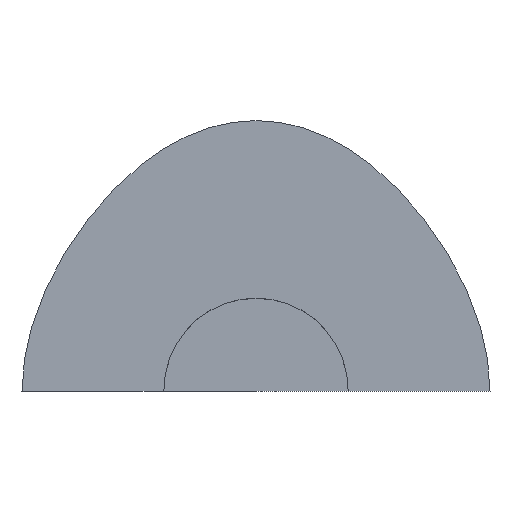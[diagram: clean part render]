
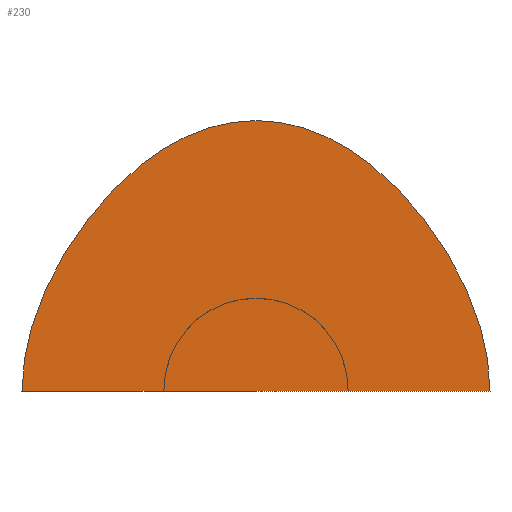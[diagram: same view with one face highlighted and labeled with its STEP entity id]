
A CAD part, top view. The second image highlights one B-rep face of the part: STEP entity #230.
In plain terms, the highlighted planar face has unit normal (0, 0, 1).
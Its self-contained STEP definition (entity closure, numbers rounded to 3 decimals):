
#193=CARTESIAN_POINT('Axis2P3D Location',(0.,59.765,0.)) ;
#198=CARTESIAN_POINT('Line Origine',(0.,0.,0.)) ;
#202=CARTESIAN_POINT('Vertex',(-127.,0.,0.)) ;
#204=CARTESIAN_POINT('Vertex',(127.,0.,0.)) ;
#208=CARTESIAN_POINT('Control Point',(0.,147.,0.)) ;
#209=CARTESIAN_POINT('Control Point',(38.853,147.,0.)) ;
#210=CARTESIAN_POINT('Control Point',(75.459,124.82,0.)) ;
#211=CARTESIAN_POINT('Control Point',(109.82,80.459,0.)) ;
#212=CARTESIAN_POINT('Control Point',(127.,38.853,0.)) ;
#213=CARTESIAN_POINT('Control Point',(127.,0.,0.)) ;
#214=CARTESIAN_POINT('Vertex',(0.,147.,0.)) ;
#218=CARTESIAN_POINT('Control Point',(0.,147.,0.)) ;
#219=CARTESIAN_POINT('Control Point',(-38.853,147.,0.)) ;
#220=CARTESIAN_POINT('Control Point',(-75.459,124.82,0.)) ;
#221=CARTESIAN_POINT('Control Point',(-109.82,80.459,0.)) ;
#222=CARTESIAN_POINT('Control Point',(-127.,38.853,0.)) ;
#223=CARTESIAN_POINT('Control Point',(-127.,0.,0.)) ;
#194=DIRECTION('Axis2P3D Direction',(0.,0.,1.)) ;
#195=DIRECTION('Axis2P3D XDirection',(1.,0.,0.)) ;
#199=DIRECTION('Vector Direction',(1.,0.,0.)) ;
#196=AXIS2_PLACEMENT_3D('Plane Axis2P3D',#193,#194,#195) ;
#226=ORIENTED_EDGE('',*,*,#206,.T.) ;
#227=ORIENTED_EDGE('',*,*,#216,.T.) ;
#228=ORIENTED_EDGE('',*,*,#224,.T.) ;
#200=VECTOR('Line Direction',#199,1.) ;
#230=ADVANCED_FACE('Fill.1',(#229),#197,.T.) ;
#207=B_SPLINE_CURVE_WITH_KNOTS('',5,(#208,#209,#210,#211,#212,#213),.UNSPECIFIED.,.F.,.U.,(6,6),(0.,194.263),.UNSPECIFIED.) ;
#217=B_SPLINE_CURVE_WITH_KNOTS('',5,(#218,#219,#220,#221,#222,#223),.UNSPECIFIED.,.F.,.U.,(6,6),(0.,194.263),.UNSPECIFIED.) ;
#206=EDGE_CURVE('',#203,#205,#201,.T.) ;
#216=EDGE_CURVE('',#205,#215,#207,.F.) ;
#224=EDGE_CURVE('',#215,#203,#217,.T.) ;
#225=EDGE_LOOP('',(#226,#227,#228)) ;
#229=FACE_OUTER_BOUND('',#225,.T.) ;
#201=LINE('Line',#198,#200) ;
#197=PLANE('',#196) ;
#203=VERTEX_POINT('',#202) ;
#205=VERTEX_POINT('',#204) ;
#215=VERTEX_POINT('',#214) ;
